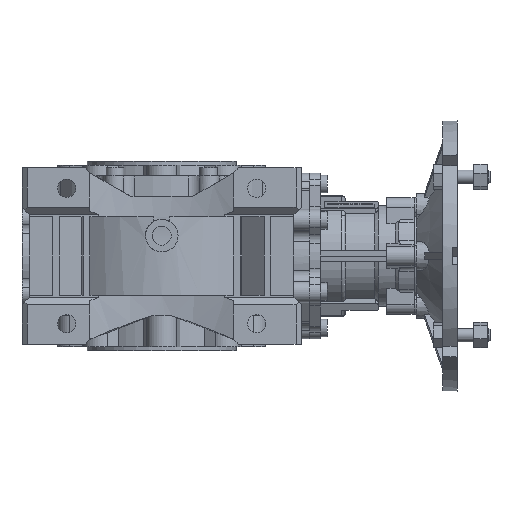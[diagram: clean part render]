
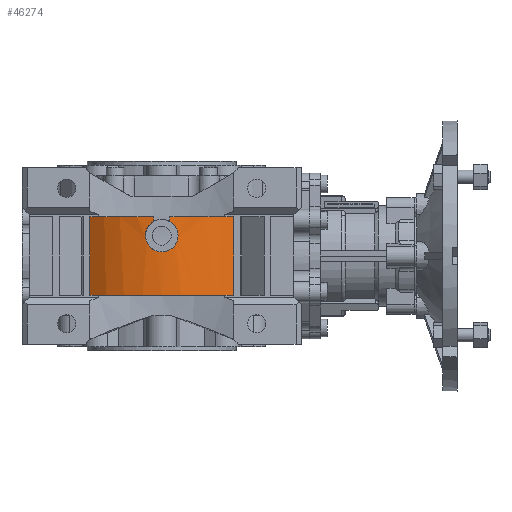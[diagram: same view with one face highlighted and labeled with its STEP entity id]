
A CAD part, front view. The second image highlights one B-rep face of the part: STEP entity #46274.
In plain terms, the highlighted cylindrical face has radius 86 mm (diameter 172 mm), a partial arc.
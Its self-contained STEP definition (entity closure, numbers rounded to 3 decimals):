
#556=B_SPLINE_CURVE_WITH_KNOTS('',3,(#65759,#65760,#65761,#65762,#65763,
#65764,#65765,#65766,#65767,#65768,#65769,#65770,#65771,#65772,#65773,#65774),
 .UNSPECIFIED.,.F.,.F.,(4,1,1,1,1,1,1,1,1,1,1,1,1,4),(0.044,
0.052,0.056,0.059,0.063,
0.067,0.071,0.075,0.083,
0.087,0.091,0.095,0.099,
0.106),.UNSPECIFIED.);
#802=CYLINDRICAL_SURFACE('',#48800,86.);
#2061=LINE('',#64752,#4959);
#2063=LINE('',#64755,#4961);
#2398=LINE('',#65757,#5296);
#2399=LINE('',#65776,#5297);
#4959=VECTOR('',#53371,1000.);
#4961=VECTOR('',#53375,1000.);
#5296=VECTOR('',#54318,1000.);
#5297=VECTOR('',#54319,1000.);
#9810=ORIENTED_EDGE('',*,*,#18979,.T.);
#9811=ORIENTED_EDGE('',*,*,#18980,.T.);
#9812=ORIENTED_EDGE('',*,*,#18981,.T.);
#9813=ORIENTED_EDGE('',*,*,#18470,.T.);
#9814=ORIENTED_EDGE('',*,*,#18483,.T.);
#9815=ORIENTED_EDGE('',*,*,#18450,.F.);
#9816=ORIENTED_EDGE('',*,*,#18481,.T.);
#9817=ORIENTED_EDGE('',*,*,#17702,.T.);
#17702=EDGE_CURVE('',#22688,#22686,#25850,.T.);
#18450=EDGE_CURVE('',#23244,#23245,#26027,.T.);
#18470=EDGE_CURVE('',#23258,#23261,#26035,.T.);
#18481=EDGE_CURVE('',#23244,#22688,#2061,.T.);
#18483=EDGE_CURVE('',#23261,#23245,#2063,.F.);
#18979=EDGE_CURVE('',#22686,#23590,#2398,.F.);
#18980=EDGE_CURVE('',#23590,#23591,#556,.T.);
#18981=EDGE_CURVE('',#23591,#23258,#2399,.T.);
#22686=VERTEX_POINT('',#62884);
#22688=VERTEX_POINT('',#62887);
#23244=VERTEX_POINT('',#64690);
#23245=VERTEX_POINT('',#64692);
#23258=VERTEX_POINT('',#64725);
#23261=VERTEX_POINT('',#64731);
#23590=VERTEX_POINT('',#65758);
#23591=VERTEX_POINT('',#65775);
#25850=CIRCLE('',#48075,86.);
#26027=CIRCLE('',#48474,86.);
#26035=CIRCLE('',#48486,86.);
#27696=EDGE_LOOP('',(#9810,#9811,#9812,#9813,#9814,#9815,#9816,#9817));
#29949=FACE_BOUND('',#27696,.T.);
#46274=ADVANCED_FACE('',(#29949),#802,.T.);
#48075=AXIS2_PLACEMENT_3D('',#62886,#52093,#52094);
#48474=AXIS2_PLACEMENT_3D('',#64691,#53311,#53312);
#48486=AXIS2_PLACEMENT_3D('',#64732,#53347,#53348);
#48800=AXIS2_PLACEMENT_3D('',#65756,#54316,#54317);
#52093=DIRECTION('',(0.,0.,1.));
#52094=DIRECTION('',(1.,0.,0.));
#53311=DIRECTION('',(0.,0.,1.));
#53312=DIRECTION('',(1.,0.,0.));
#53347=DIRECTION('',(0.,0.,1.));
#53348=DIRECTION('',(1.,0.,0.));
#53371=DIRECTION('',(0.,0.,-1.));
#53375=DIRECTION('',(0.,0.,-1.));
#54316=DIRECTION('',(0.,0.,-1.));
#54317=DIRECTION('',(-1.,0.,0.));
#54318=DIRECTION('',(0.,0.,-1.));
#54319=DIRECTION('',(0.,0.,-1.));
#62884=CARTESIAN_POINT('',(-6.,-85.79,-29.));
#62886=CARTESIAN_POINT('',(0.,0.,-29.));
#62887=CARTESIAN_POINT('',(-53.,-67.727,-29.));
#64690=CARTESIAN_POINT('',(-53.,-67.727,29.));
#64691=CARTESIAN_POINT('',(0.,0.,29.));
#64692=CARTESIAN_POINT('',(53.,-67.727,29.));
#64725=CARTESIAN_POINT('',(6.,-85.79,-29.));
#64731=CARTESIAN_POINT('',(53.,-67.727,-29.));
#64732=CARTESIAN_POINT('',(0.,0.,-29.));
#64752=CARTESIAN_POINT('',(-53.,-67.727,29.));
#64755=CARTESIAN_POINT('',(53.,-67.727,29.));
#65756=CARTESIAN_POINT('',(0.,0.,29.));
#65757=CARTESIAN_POINT('',(-6.,-85.79,29.));
#65758=CARTESIAN_POINT('',(-6.,-85.79,-25.392));
#65759=CARTESIAN_POINT('',(-6.,-85.79,-25.392));
#65760=CARTESIAN_POINT('',(-8.276,-85.631,-24.078));
#65761=CARTESIAN_POINT('',(-10.981,-85.304,-20.981));
#65762=CARTESIAN_POINT('',(-12.19,-85.131,-15.806));
#65763=CARTESIAN_POINT('',(-11.801,-85.188,-11.84));
#65764=CARTESIAN_POINT('',(-10.159,-85.407,-8.216));
#65765=CARTESIAN_POINT('',(-7.442,-85.697,-5.314));
#65766=CARTESIAN_POINT('',(-3.945,-85.937,-3.437));
#65767=CARTESIAN_POINT('',(1.337,-86.065,-2.558));
#65768=CARTESIAN_POINT('',(6.541,-85.796,-4.343));
#65769=CARTESIAN_POINT('',(10.159,-85.407,-8.217));
#65770=CARTESIAN_POINT('',(11.8,-85.188,-11.839));
#65771=CARTESIAN_POINT('',(12.19,-85.131,-15.804));
#65772=CARTESIAN_POINT('',(10.984,-85.304,-20.979));
#65773=CARTESIAN_POINT('',(8.266,-85.632,-24.084));
#65774=CARTESIAN_POINT('',(6.,-85.79,-25.392));
#65775=CARTESIAN_POINT('',(6.,-85.79,-25.392));
#65776=CARTESIAN_POINT('',(6.,-85.79,29.));
